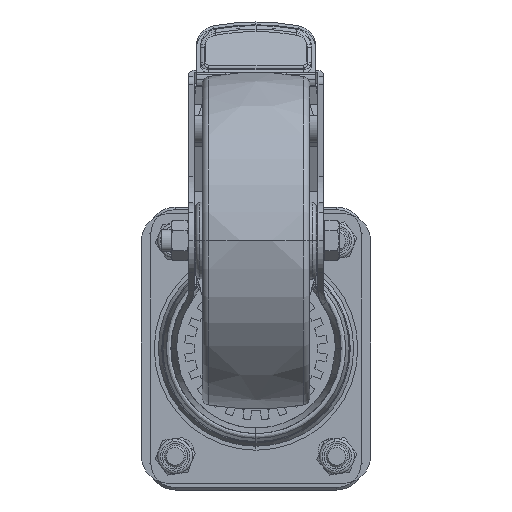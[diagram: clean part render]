
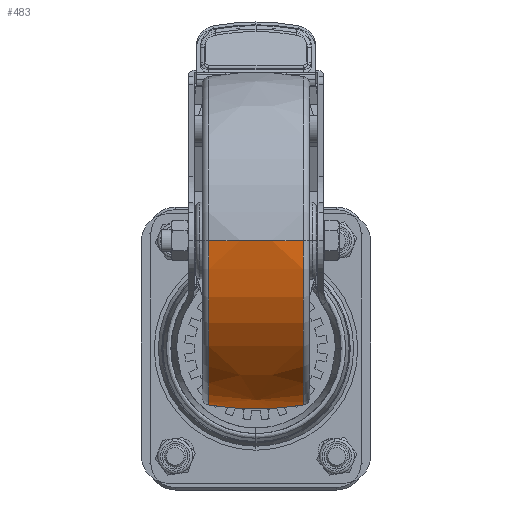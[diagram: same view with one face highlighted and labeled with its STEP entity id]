
A CAD part, front view. The second image highlights one B-rep face of the part: STEP entity #483.
In plain terms, the highlighted free-form (B-spline) face has degree [3, 3] with [4, 4] control points.
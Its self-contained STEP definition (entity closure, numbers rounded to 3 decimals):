
#483 = ADVANCED_FACE ( 'NONE', ( #6296 ), #3738, .T. ) ;
#1335 = CARTESIAN_POINT ( 'NONE',  ( 60.952, 10.553, -59.793 ) ) ;
#2658 = CARTESIAN_POINT ( 'NONE',  ( 0., 10.553, 62.111 ) ) ;
#3098 = DIRECTION ( 'NONE',  ( 1., 0., 0. ) ) ;
#3738 =( BOUNDED_SURFACE ( )  B_SPLINE_SURFACE ( 3, 3, ( 
 ( #31462, #53703, #31840, #5526 ),
 ( #36228, #9969, #40677, #14351 ),
 ( #45078, #18764, #49492, #23192 ),
 ( #53903, #27596, #1335, #32045 ) ),
 .UNSPECIFIED., .F., .F., .F. ) 
 B_SPLINE_SURFACE_WITH_KNOTS ( ( 4, 4 ),
 ( 4, 4 ),
 ( 0., 1. ),
 ( 0., 1. ),
 .UNSPECIFIED. ) 
 GEOMETRIC_REPRESENTATION_ITEM ( )  RATIONAL_B_SPLINE_SURFACE ( (
 ( 1., 0.333, 0.333, 1.),
 ( 0.99, 0.33, 0.33, 0.99),
 ( 0.99, 0.33, 0.33, 0.99),
 ( 1., 0.333, 0.333, 1.) ) ) 
 REPRESENTATION_ITEM ( '' )  SURFACE ( )  );
#4280 = DIRECTION ( 'NONE',  ( 1., 0., 0. ) ) ;
#5526 = CARTESIAN_POINT ( 'NONE',  ( 60.952, -24.499, 62.111 ) ) ;
#6296 = FACE_OUTER_BOUND ( 'NONE', #42906, .T. ) ;
#6873 = VERTEX_POINT ( 'NONE', #11221 ) ;
#7074 = DIRECTION ( 'NONE',  ( 1., 0., 0. ) ) ;
#9969 = CARTESIAN_POINT ( 'NONE',  ( -63.021, -12.876, -63.931 ) ) ;
#11221 = CARTESIAN_POINT ( 'NONE',  ( -60.952, 10.553, 62.111 ) ) ;
#14291 = CARTESIAN_POINT ( 'NONE',  ( -60.952, -24.499, 62.111 ) ) ;
#14313 = CARTESIAN_POINT ( 'NONE',  ( 60.952, 10.553, 62.111 ) ) ;
#14351 = CARTESIAN_POINT ( 'NONE',  ( 63.021, -12.876, 62.111 ) ) ;
#14872 = AXIS2_PLACEMENT_3D ( 'NONE', #56891, #30602, #4280 ) ;
#17251 = AXIS2_PLACEMENT_3D ( 'NONE', #18371, #49106, #22787 ) ;
#18371 = CARTESIAN_POINT ( 'NONE',  ( 37.5, -6.973, 62.111 ) ) ;
#18658 = ORIENTED_EDGE ( 'NONE', *, *, #52352, .T. ) ;
#18764 = CARTESIAN_POINT ( 'NONE',  ( -63.021, -1.07, -63.931 ) ) ;
#19495 = EDGE_CURVE ( 'NONE', #6873, #23520, #46416, .T. ) ;
#20454 = CIRCLE ( 'NONE', #22424, 60.952 ) ;
#20812 = ORIENTED_EDGE ( 'NONE', *, *, #39274, .T. ) ;
#22424 = AXIS2_PLACEMENT_3D ( 'NONE', #55687, #29392, #3098 ) ;
#22787 = DIRECTION ( 'NONE',  ( -1., 0., 0. ) ) ;
#23159 = VERTEX_POINT ( 'NONE', #33944 ) ;
#23192 = CARTESIAN_POINT ( 'NONE',  ( 63.021, -1.07, 62.111 ) ) ;
#23520 = VERTEX_POINT ( 'NONE', #14313 ) ;
#23969 = EDGE_CURVE ( 'NONE', #23159, #23520, #34373, .T. ) ;
#25476 = ORIENTED_EDGE ( 'NONE', *, *, #23969, .F. ) ;
#27596 = CARTESIAN_POINT ( 'NONE',  ( -60.952, 10.553, -59.793 ) ) ;
#28647 = VERTEX_POINT ( 'NONE', #14291 ) ;
#29392 = DIRECTION ( 'NONE',  ( 0., 1., 0. ) ) ;
#30602 = DIRECTION ( 'NONE',  ( 0., 0., 1. ) ) ;
#31462 = CARTESIAN_POINT ( 'NONE',  ( -60.952, -24.499, 62.111 ) ) ;
#31840 = CARTESIAN_POINT ( 'NONE',  ( 60.952, -24.499, -59.793 ) ) ;
#32045 = CARTESIAN_POINT ( 'NONE',  ( 60.952, 10.553, 62.111 ) ) ;
#33372 = DIRECTION ( 'NONE',  ( 0., -1., 0. ) ) ;
#33944 = CARTESIAN_POINT ( 'NONE',  ( 60.952, -24.499, 62.111 ) ) ;
#34013 = CIRCLE ( 'NONE', #17251, 100. ) ;
#34373 = CIRCLE ( 'NONE', #14872, 100. ) ;
#36228 = CARTESIAN_POINT ( 'NONE',  ( -63.021, -12.876, 62.111 ) ) ;
#39274 = EDGE_CURVE ( 'NONE', #23159, #28647, #20454, .T. ) ;
#40677 = CARTESIAN_POINT ( 'NONE',  ( 63.021, -12.876, -63.931 ) ) ;
#42906 = EDGE_LOOP ( 'NONE', ( #20812, #18658, #53146, #25476 ) ) ;
#45078 = CARTESIAN_POINT ( 'NONE',  ( -63.021, -1.07, 62.111 ) ) ;
#46416 = CIRCLE ( 'NONE', #50776, 60.952 ) ;
#49106 = DIRECTION ( 'NONE',  ( 0., 0., -1. ) ) ;
#49492 = CARTESIAN_POINT ( 'NONE',  ( 63.021, -1.07, -63.931 ) ) ;
#50776 = AXIS2_PLACEMENT_3D ( 'NONE', #2658, #33372, #7074 ) ;
#52352 = EDGE_CURVE ( 'NONE', #28647, #6873, #34013, .T. ) ;
#53146 = ORIENTED_EDGE ( 'NONE', *, *, #19495, .T. ) ;
#53703 = CARTESIAN_POINT ( 'NONE',  ( -60.952, -24.499, -59.793 ) ) ;
#53903 = CARTESIAN_POINT ( 'NONE',  ( -60.952, 10.553, 62.111 ) ) ;
#55687 = CARTESIAN_POINT ( 'NONE',  ( 0., -24.499, 62.111 ) ) ;
#56891 = CARTESIAN_POINT ( 'NONE',  ( -37.5, -6.973, 62.111 ) ) ;
